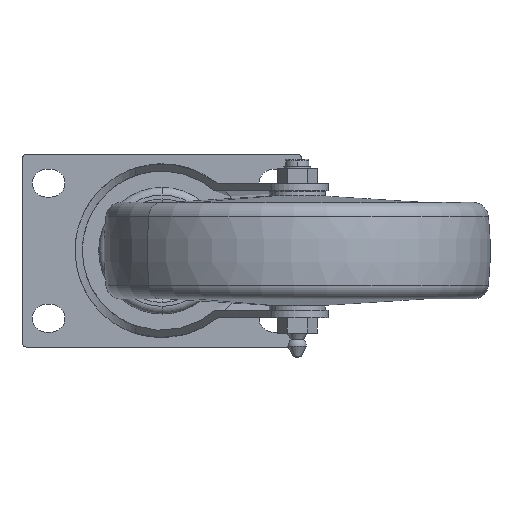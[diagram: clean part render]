
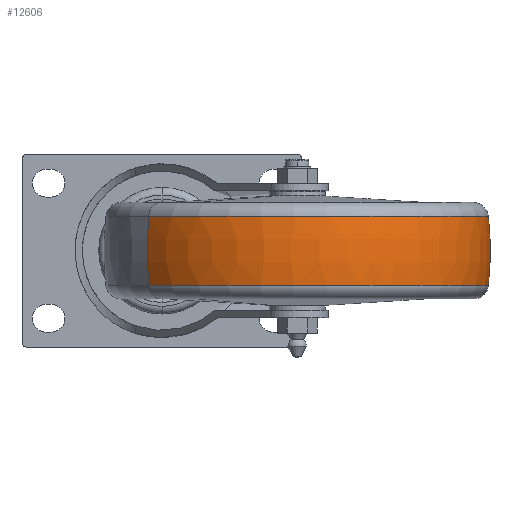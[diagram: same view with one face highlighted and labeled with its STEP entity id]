
A CAD part, front view. The second image highlights one B-rep face of the part: STEP entity #12606.
In plain terms, the highlighted toroidal (fillet/blend) face has major radius 42.869 mm and minor radius 106.369 mm.
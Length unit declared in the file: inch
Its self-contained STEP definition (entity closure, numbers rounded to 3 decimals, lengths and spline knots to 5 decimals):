
#304 = DIRECTION ( 'NONE',  ( -0.776, -0.631, 0. ) ) ;
#510 = DIRECTION ( 'NONE',  ( 0.776, 0.631, 0. ) ) ;
#864 = DIRECTION ( 'NONE',  ( 0.631, -0.776, 0. ) ) ;
#1411 = CARTESIAN_POINT ( 'NONE',  ( 1.75, -4.98, 0.44632 ) ) ;
#1443 = VERTEX_POINT ( 'NONE', #6712 ) ;
#1747 = DIRECTION ( 'NONE',  ( 0., 0., 1. ) ) ;
#2127 = DIRECTION ( 'NONE',  ( 0.776, 0.631, 0. ) ) ;
#2165 = VERTEX_POINT ( 'NONE', #2822 ) ;
#2197 = CIRCLE ( 'NONE', #3404, 4.18776 ) ;
#2822 = CARTESIAN_POINT ( 'NONE',  ( -0.17109, -6.54228, -0.44632 ) ) ;
#3336 = ORIENTED_EDGE ( 'NONE', *, *, #7208, .T. ) ;
#3404 = AXIS2_PLACEMENT_3D ( 'NONE', #9727, #14711, #10667 ) ;
#3692 = AXIS2_PLACEMENT_3D ( 'NONE', #5746, #864, #2127 ) ;
#5231 = CIRCLE ( 'NONE', #7417, 2.47615 ) ;
#5746 = CARTESIAN_POINT ( 'NONE',  ( 0.44057, -6.04486, 0. ) ) ;
#6297 = ORIENTED_EDGE ( 'NONE', *, *, #8203, .T. ) ;
#6712 = CARTESIAN_POINT ( 'NONE',  ( -0.17109, -6.54228, 0.44632 ) ) ;
#7208 = EDGE_CURVE ( 'NONE', #2165, #11383, #15306, .T. ) ;
#7417 = AXIS2_PLACEMENT_3D ( 'NONE', #1411, #13477, #304 ) ;
#7738 = CARTESIAN_POINT ( 'NONE',  ( 3.67109, -3.41772, -0.44632 ) ) ;
#8203 = EDGE_CURVE ( 'NONE', #11383, #14231, #13556, .T. ) ;
#8394 = AXIS2_PLACEMENT_3D ( 'NONE', #8805, #1747, #510 ) ;
#8805 = CARTESIAN_POINT ( 'NONE',  ( 1.75, -4.98, 0. ) ) ;
#8904 = EDGE_CURVE ( 'NONE', #14231, #1443, #5231, .T. ) ;
#9096 = DIRECTION ( 'NONE',  ( 0., 0., 1. ) ) ;
#9727 = CARTESIAN_POINT ( 'NONE',  ( 3.05943, -3.91514, 0. ) ) ;
#9906 = EDGE_LOOP ( 'NONE', ( #15161, #3336, #6297, #12344 ) ) ;
#10150 = DIRECTION ( 'NONE',  ( 0.776, 0.631, 0. ) ) ;
#10667 = DIRECTION ( 'NONE',  ( -0.776, -0.631, 0. ) ) ;
#11037 = TOROIDAL_SURFACE ( 'NONE', #8394, -1.68776, 4.18776 ) ;
#11383 = VERTEX_POINT ( 'NONE', #7738 ) ;
#11673 = AXIS2_PLACEMENT_3D ( 'NONE', #13633, #9096, #10150 ) ;
#11749 = EDGE_CURVE ( 'NONE', #2165, #1443, #2197, .T. ) ;
#11908 = CARTESIAN_POINT ( 'NONE',  ( 3.67109, -3.41772, 0.44632 ) ) ;
#12344 = ORIENTED_EDGE ( 'NONE', *, *, #8904, .T. ) ;
#12606 = ADVANCED_FACE ( 'NONE', ( #13874 ), #11037, .T. ) ;
#13477 = DIRECTION ( 'NONE',  ( 0., 0., -1. ) ) ;
#13556 = CIRCLE ( 'NONE', #3692, 4.18776 ) ;
#13633 = CARTESIAN_POINT ( 'NONE',  ( 1.75, -4.98, -0.44632 ) ) ;
#13874 = FACE_OUTER_BOUND ( 'NONE', #9906, .T. ) ;
#14231 = VERTEX_POINT ( 'NONE', #11908 ) ;
#14711 = DIRECTION ( 'NONE',  ( -0.631, 0.776, 0. ) ) ;
#15161 = ORIENTED_EDGE ( 'NONE', *, *, #11749, .F. ) ;
#15306 = CIRCLE ( 'NONE', #11673, 2.47615 ) ;
